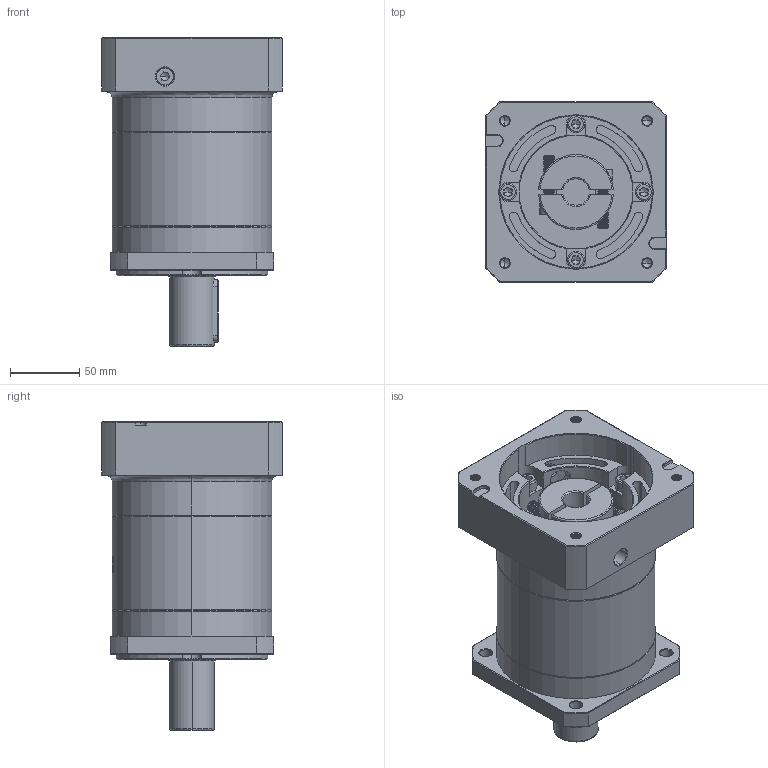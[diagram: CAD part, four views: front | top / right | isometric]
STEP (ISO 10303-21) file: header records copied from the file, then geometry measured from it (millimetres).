
FILE_DESCRIPTION (( 'STEP AP214' ), '1' );
FILE_NAME ('ZF120A-D32-L2-P2-19-110-145-M8.step', '2023-08-27T04:45:02', ( '' ), ( '' ), 'SwSTEP 2.0', 'SolidWorks 2016', '' );
FILE_SCHEMA (( 'AUTOMOTIVE_DESIGN' ));
Length unit declared in the file: millimetre
Products named in the file (1): ZF120A-D32-L2-P2-19-110-145-M8
Bounding box: 130 x 130 x 222.5 mm (x, y, z)
Volume: 1768685.2 mm3; surface area: 193614.1 mm2
Topology: 6 solids, 6 shells, 2276 faces, 6080 edges, 3903 vertices
Faces by surface type: plane 1060, cylinder 449, bspline 421, cone 327, torus 19
Entity records: 126570 total; most frequent: CARTESIAN_POINT 50213, ORIENTED_EDGE 12100, DIRECTION 8814, EDGE_CURVE 6050, VERTEX_POINT 3903, VECTOR 3172, LINE 3172, AXIS2_PLACEMENT_3D 2821
